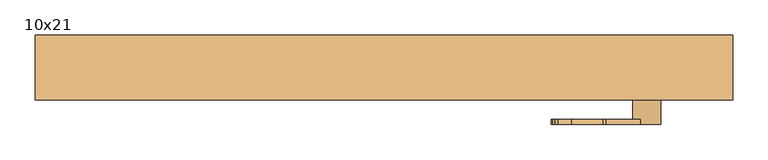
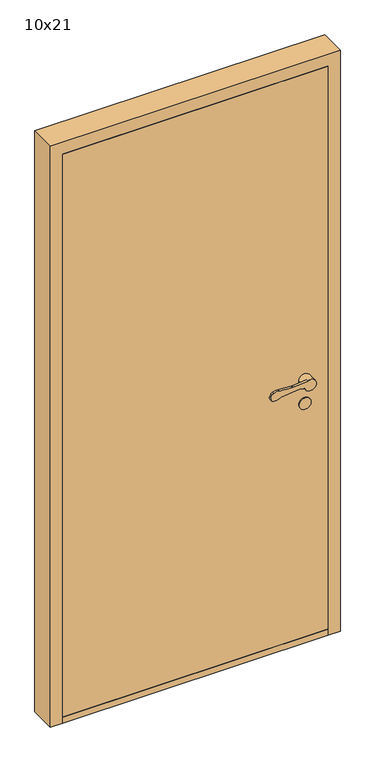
"""IFC4 building model written with IfcOpenShell, lengths in millimetres: door geometry, Innerdør Slett (Diplomat) : 10x21."""

from ifc_helpers import new_model, si_unit, point, frame, frame_2d, origin, origin_with_axes, place, context, project, spatial, polyline, circle_curve, trimmed, segment, composite_curve, outline, extrude, source, transform, mapped, element, save
from ifc_brep_helpers import plane_surface, cylinder_surface, revolved_surface, advanced_brep


def door_10x21_bfb00524(model_context):
    return source(origin(), model_context, "Body", "SolidModel", [
        advanced_brep(
        [(393.9611305, 20.0, 949.1175955), (388.8520664, 20.0, 949.9496913), (326.0476109, 20.0, 943.6260011), (296.721536, 20.0, 938.7393398), (291.8691983, 20.0, 951.8913379), (295.505009, 20.0, 959.9624074), (300.3175669, 20.0, 964.8810513), (318.8963175, 20.0, 967.2639242), (363.6202158, 20.0, 964.1804415), (368.6891233, 20.0, 964.26032), (417.2687793, 20.0, 969.1517356), (446.379633, 20.0, 951.3474568), (408.3841161, 20.0, 942.6204086), (368.6891233, 12.8915284, 964.26032), (363.6202158, 12.8915284, 964.1804415), (318.8963175, 12.8915284, 967.2639242), (300.3175669, 12.8915284, 964.8810513), (295.505009, 12.8915284, 959.9624074), (291.8691983, 12.8915284, 951.8913379), (296.721536, 12.8915284, 938.7393398), (326.0476109, 12.8915284, 943.6260011), (388.8520664, 12.8915284, 949.9496913), (393.9611305, 12.8915284, 949.1175955), (408.3841161, 12.8915284, 942.6204086), (406.379633, 12.8915284, 951.3474568), (417.2687793, 12.8915284, 969.1517356), (446.379633, -15.0, 951.3474568), (406.379633, -15.0, 951.3474568)],
        [
            (0, 1, circle_curve(frame((389.8538865, 20.0, 940.0), z_axis=(0.0, -1.0, 0.0), x_axis=(-0.9949691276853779, 0.0, -0.10018200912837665)), 10.0)),
            (1, 2),
            (2, 3, circle_curve(frame((307.8569644, 20.0, 962.352734), z_axis=(0.0, 1.0, 0.0), x_axis=(-0.9949691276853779, 0.0, -0.10018200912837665)), 26.1072815)),
            (3, 4, circle_curve(frame((300.9867937, 20.0, 947.7840939), z_axis=(0.0, 1.0, 0.0), x_axis=(-0.9949691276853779, 0.0, -0.10018200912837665)), 10.0)),
            (4, 5),
            (5, 6, circle_curve(frame((304.6226045, 20.0, 955.8551634), z_axis=(0.0, 1.0, 0.0), x_axis=(-0.9949691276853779, 0.0, -0.10018200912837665)), 10.0)),
            (6, 7, circle_curve(frame((313.2326797, 20.0, 937.8033877), z_axis=(0.0, 1.0, 0.0), x_axis=(-0.9949691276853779, 0.0, -0.10018200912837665)), 30.0)),
            (7, 8),
            (8, 9, circle_curve(frame((365.683663, 20.0, 994.1093938), z_axis=(0.0, -1.0, 0.0), x_axis=(-0.9949691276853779, 0.0, -0.10018200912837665)), 30.0)),
            (9, 10),
            (10, 11, circle_curve(frame((426.379633, 20.0, 951.3474568), z_axis=(0.0, 1.0, 0.0), x_axis=(-1.0, 0.0, 0.0)), 20.0)),
            (11, 12, circle_curve(frame((426.379633, 20.0, 951.3474568), z_axis=(0.0, 1.0, 0.0), x_axis=(-1.0, 0.0, 0.0)), 20.0)),
            (12, 0),
            (13, 14, circle_curve(frame((365.683663, 12.8915284, 994.1093938), z_axis=(0.0, 1.0, 0.0), x_axis=(-0.9949691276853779, 0.0, -0.10018200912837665)), 30.0)),
            (14, 15),
            (15, 16, circle_curve(frame((313.2326797, 12.8915284, 937.8033877), z_axis=(0.0, -1.0, 0.0), x_axis=(-0.9949691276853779, 0.0, -0.10018200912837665)), 30.0)),
            (16, 17, circle_curve(frame((304.6226045, 12.8915284, 955.8551634), z_axis=(0.0, -1.0, 0.0), x_axis=(-0.9949691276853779, 0.0, -0.10018200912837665)), 10.0)),
            (17, 18),
            (18, 19, circle_curve(frame((300.9867937, 12.8915284, 947.7840939), z_axis=(0.0, -1.0, 0.0), x_axis=(-0.9949691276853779, 0.0, -0.10018200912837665)), 10.0)),
            (19, 20, circle_curve(frame((307.8569644, 12.8915284, 962.352734), z_axis=(0.0, -1.0, 0.0), x_axis=(-0.9949691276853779, 0.0, -0.10018200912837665)), 26.1072815)),
            (20, 21),
            (21, 22, circle_curve(frame((389.8538865, 12.8915284, 940.0), z_axis=(0.0, 1.0, 0.0), x_axis=(-0.9949691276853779, 0.0, -0.10018200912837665)), 10.0)),
            (22, 23),
            (23, 24, circle_curve(frame((426.379633, 12.8915284, 951.3474568), z_axis=(0.0, 1.0, 0.0), x_axis=(-1.0, 0.0, 0.0)), 20.0)),
            (24, 25, circle_curve(frame((426.379633, 12.8915284, 951.3474568), z_axis=(0.0, 1.0, 0.0), x_axis=(-1.0, 0.0, 0.0)), 20.0)),
            (25, 13),
            (9, 13),
            (25, 10),
            (22, 0),
            (12, 23),
            (21, 1),
            (20, 2),
            (19, 3),
            (18, 4),
            (17, 5),
            (16, 6),
            (15, 7),
            (14, 8),
            (26, 27, circle_curve(frame((426.379633, -15.0, 951.3474568), z_axis=(0.0, -1.0, 0.0), x_axis=(-1.0, 0.0, 0.0)), 20.0)),
            (27, 26, circle_curve(frame((426.379633, -15.0, 951.3474568), z_axis=(0.0, -1.0, 0.0), x_axis=(-1.0, 0.0, 0.0)), 20.0)),
            (27, 24),
            (11, 26),
        ],
        [
            plane_surface(frame((417.6960588, 20.0, 969.1947577), z_axis=(0.0, 1.0000000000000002, 0.0), x_axis=(0.9949691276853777, 0.0, 0.10018200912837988))),
            plane_surface(frame((417.6960588, 12.8915284, 969.1947577), z_axis=(0.0, -1.0000000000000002, 0.0), x_axis=(-0.9949691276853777, 0.0, -0.10018200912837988))),
            plane_surface(frame((368.6891233, 20.0, 964.26032), z_axis=(-0.10018200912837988, 0.0, 0.9949691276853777), x_axis=(0.0, -1.0, 0.0))),
            plane_surface(frame((426.9687366, 20.0, 934.2485115), z_axis=(-0.41072439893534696, 0.0, -0.91175954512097), x_axis=(0.0, -1.0, 0.0))),
            revolved_surface(polyline([(379.9041952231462, 12.8915284, 938.9981799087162), (379.9041952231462, 20.0, 938.9981799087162)]), (389.8538865, 12.8915284, 940.0), (0.0, -1.0, 0.0)),
            plane_surface(frame((388.8520664, 20.0, 949.9496913), z_axis=(0.10018200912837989, 0.0, -0.9949691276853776), x_axis=(0.0, -1.0, 0.0))),
            cylinder_surface(frame((307.8569644, 12.8915284, 962.352734), z_axis=(0.0, 1.0, 0.0), x_axis=(-0.9949691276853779, 0.0, -0.10018200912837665)), 26.1072815),
            cylinder_surface(frame((300.9867937, 12.8915284, 947.7840939), z_axis=(0.0, 1.0, 0.0), x_axis=(-0.9949691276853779, 0.0, -0.10018200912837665)), 10.0),
            plane_surface(frame((291.8691983, 20.0, 951.8913379), z_axis=(-0.9117595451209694, 0.0, 0.41072439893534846), x_axis=(0.0, -1.0, 0.0))),
            cylinder_surface(frame((304.6226045, 12.8915284, 955.8551634), z_axis=(0.0, 1.0, 0.0), x_axis=(-0.9949691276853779, 0.0, -0.10018200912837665)), 10.0),
            cylinder_surface(frame((313.2326797, 12.8915284, 937.8033877), z_axis=(0.0, 1.0, 0.0), x_axis=(-0.9949691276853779, 0.0, -0.10018200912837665)), 30.0),
            plane_surface(frame((318.8963175, 20.0, 967.2639242), z_axis=(0.06878157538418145, 0.0, 0.9976317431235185), x_axis=(0.0, -1.0, 0.0))),
            revolved_surface(polyline([(335.8345891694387, 12.8915284, 991.1039335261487), (335.8345891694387, 20.0, 991.1039335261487)]), (365.683663, 12.8915284, 994.1093938), (0.0, -1.0, 0.0)),
            plane_surface(frame((406.379633, -15.0, 951.3474568), z_axis=(0.0, -1.0, 0.0), x_axis=(0.0, 0.0, -1.0))),
            cylinder_surface(frame((426.379633, -15.0, 951.3474568), z_axis=(0.0, 1.0, 0.0), x_axis=(-1.0, 0.0, 0.0)), 20.0),
        ],
        [
            (0, [[1, 2, 3, 4, 5, 6, 7, 8, 9, 10, 11, 12, 13]]),
            (1, [[14, 15, 16, 17, 18, 19, 20, 21, 22, 23, 24, 25, 26]]),
            (2, [[27, -26, 28, -10]]),
            (3, [[29, -13, 30, -23]]),
            (4, [[-1, -29, -22, 31]]),
            (5, [[-2, -31, -21, 32]]),
            (6, [[-3, -32, -20, 33]]),
            (7, [[-4, -33, -19, 34]]),
            (8, [[-5, -34, -18, 35]]),
            (9, [[-6, -35, -17, 36]]),
            (10, [[-7, -36, -16, 37]]),
            (11, [[-8, -37, -15, 38]]),
            (12, [[-9, -38, -14, -27]]),
            (13, [[39, 40]]),
            (14, [[-40, 41, -24, -30, -12, 42]]),
            (14, [[-39, -42, -11, -28, -25, -41]]),
        ],
    ),
        extrude(outline(composite_curve([segment(trimmed(circle_curve(frame_2d((866.3474568, 426.379633)), 20.0), [point((866.3474568, 446.379633))], [point((866.3474568, 406.379633))], False, "CARTESIAN"), True, "CONTINUOUS"), segment(trimmed(circle_curve(frame_2d((866.3474568, 426.379633)), 20.0), [point((866.3474568, 406.379633))], [point((866.3474568, 446.379633))], False, "CARTESIAN"), True, "CONTINUOUS")], self_intersect=False)), frame((0.0, -15.0, 0.0), z_axis=(0.0, 1.0, 0.0), x_axis=(0.0, 0.0, 1.0)), (0.0, 0.0, 1.0), 5.0),
        advanced_brep(
        [(393.9611305, -100.0, 949.1175955), (408.3841161, -100.0, 942.6204086), (446.379633, -100.0, 951.3474568), (417.2687793, -100.0, 969.1517356), (368.6891233, -100.0, 964.26032), (363.6202158, -100.0, 964.1804415), (318.8963175, -100.0, 967.2639242), (300.3175669, -100.0, 964.8810513), (295.505009, -100.0, 959.9624074), (291.8691983, -100.0, 951.8913379), (296.721536, -100.0, 938.7393398), (326.0476109, -100.0, 943.6260011), (388.8520664, -100.0, 949.9496913), (368.6891233, -92.8915284, 964.26032), (417.2687793, -92.8915284, 969.1517356), (406.379633, -92.8915284, 951.3474568), (408.3841161, -92.8915284, 942.6204086), (393.9611305, -92.8915284, 949.1175955), (388.8520664, -92.8915284, 949.9496913), (326.0476109, -92.8915284, 943.6260011), (296.721536, -92.8915284, 938.7393398), (291.8691983, -92.8915284, 951.8913379), (295.505009, -92.8915284, 959.9624074), (300.3175669, -92.8915284, 964.8810513), (318.8963175, -92.8915284, 967.2639242), (363.6202158, -92.8915284, 964.1804415), (446.379633, -65.0, 951.3474568), (406.379633, -65.0, 951.3474568)],
        [
            (0, 1),
            (1, 2, circle_curve(frame((426.379633, -100.0, 951.3474568), z_axis=(0.0, -1.0, 0.0), x_axis=(-1.0, 0.0, 0.0)), 20.0)),
            (2, 3, circle_curve(frame((426.379633, -100.0, 951.3474568), z_axis=(0.0, -1.0, 0.0), x_axis=(-1.0, 0.0, 0.0)), 20.0)),
            (3, 4),
            (4, 5, circle_curve(frame((365.683663, -100.0, 994.1093938), z_axis=(0.0, 1.0, 0.0), x_axis=(-0.9949691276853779, 0.0, -0.10018200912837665)), 30.0)),
            (5, 6),
            (6, 7, circle_curve(frame((313.2326797, -100.0, 937.8033877), z_axis=(0.0, -1.0, 0.0), x_axis=(-0.9949691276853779, 0.0, -0.10018200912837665)), 30.0)),
            (7, 8, circle_curve(frame((304.6226045, -100.0, 955.8551634), z_axis=(0.0, -1.0, 0.0), x_axis=(-0.9949691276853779, 0.0, -0.10018200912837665)), 10.0)),
            (8, 9),
            (9, 10, circle_curve(frame((300.9867937, -100.0, 947.7840939), z_axis=(0.0, -1.0, 0.0), x_axis=(-0.9949691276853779, 0.0, -0.10018200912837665)), 10.0)),
            (10, 11, circle_curve(frame((307.8569644, -100.0, 962.352734), z_axis=(0.0, -1.0, 0.0), x_axis=(-0.9949691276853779, 0.0, -0.10018200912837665)), 26.1072815)),
            (11, 12),
            (12, 0, circle_curve(frame((389.8538865, -100.0, 940.0), z_axis=(0.0, 1.0, 0.0), x_axis=(-0.9949691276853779, 0.0, -0.10018200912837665)), 10.0)),
            (13, 14),
            (14, 15, circle_curve(frame((426.379633, -92.8915284, 951.3474568), z_axis=(0.0, -1.0, 0.0), x_axis=(-1.0, 0.0, 0.0)), 20.0)),
            (15, 16, circle_curve(frame((426.379633, -92.8915284, 951.3474568), z_axis=(0.0, -1.0, 0.0), x_axis=(-1.0, 0.0, 0.0)), 20.0)),
            (16, 17),
            (17, 18, circle_curve(frame((389.8538865, -92.8915284, 940.0), z_axis=(0.0, -1.0, 0.0), x_axis=(-0.9949691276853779, 0.0, -0.10018200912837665)), 10.0)),
            (18, 19),
            (19, 20, circle_curve(frame((307.8569644, -92.8915284, 962.352734), z_axis=(0.0, 1.0, 0.0), x_axis=(-0.9949691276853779, 0.0, -0.10018200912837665)), 26.1072815)),
            (20, 21, circle_curve(frame((300.9867937, -92.8915284, 947.7840939), z_axis=(0.0, 1.0, 0.0), x_axis=(-0.9949691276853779, 0.0, -0.10018200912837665)), 10.0)),
            (21, 22),
            (22, 23, circle_curve(frame((304.6226045, -92.8915284, 955.8551634), z_axis=(0.0, 1.0, 0.0), x_axis=(-0.9949691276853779, 0.0, -0.10018200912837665)), 10.0)),
            (23, 24, circle_curve(frame((313.2326797, -92.8915284, 937.8033877), z_axis=(0.0, 1.0, 0.0), x_axis=(-0.9949691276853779, 0.0, -0.10018200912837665)), 30.0)),
            (24, 25),
            (25, 13, circle_curve(frame((365.683663, -92.8915284, 994.1093938), z_axis=(0.0, -1.0, 0.0), x_axis=(-0.9949691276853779, 0.0, -0.10018200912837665)), 30.0)),
            (3, 14),
            (13, 4),
            (16, 1),
            (0, 17),
            (12, 18),
            (11, 19),
            (10, 20),
            (9, 21),
            (8, 22),
            (7, 23),
            (6, 24),
            (5, 25),
            (26, 27, circle_curve(frame((426.379633, -65.0, 951.3474568), z_axis=(0.0, 1.0, 0.0), x_axis=(-1.0, 0.0, 0.0)), 20.0)),
            (27, 26, circle_curve(frame((426.379633, -65.0, 951.3474568), z_axis=(0.0, 1.0, 0.0), x_axis=(-1.0, 0.0, 0.0)), 20.0)),
            (26, 2),
            (15, 27),
        ],
        [
            plane_surface(frame((417.6960588, -100.0, 969.1947577), z_axis=(0.0, -1.0000000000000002, 0.0), x_axis=(0.9949691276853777, 0.0, 0.10018200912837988))),
            plane_surface(frame((417.6960588, -92.8915284, 969.1947577), z_axis=(0.0, 1.0000000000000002, 0.0), x_axis=(-0.9949691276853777, 0.0, -0.10018200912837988))),
            plane_surface(frame((368.6891233, -100.0, 964.26032), z_axis=(-0.10018200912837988, 0.0, 0.9949691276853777), x_axis=(0.0, 1.0, 0.0))),
            plane_surface(frame((426.9687366, -100.0, 934.2485115), z_axis=(-0.41072439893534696, 0.0, -0.91175954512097), x_axis=(0.0, 1.0, 0.0))),
            revolved_surface(polyline([(379.9041952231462, -92.8915284, 938.9981799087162), (379.9041952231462, -100.0, 938.9981799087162)]), (389.8538865, -92.8915284, 940.0), (0.0, 1.0, 0.0)),
            plane_surface(frame((388.8520664, -100.0, 949.9496913), z_axis=(0.10018200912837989, 0.0, -0.9949691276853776), x_axis=(0.0, 1.0, 0.0))),
            cylinder_surface(frame((307.8569644, -92.8915284, 962.352734), z_axis=(0.0, -1.0, 0.0), x_axis=(-0.9949691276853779, 0.0, -0.10018200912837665)), 26.1072815),
            cylinder_surface(frame((300.9867937, -92.8915284, 947.7840939), z_axis=(0.0, -1.0, 0.0), x_axis=(-0.9949691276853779, 0.0, -0.10018200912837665)), 10.0),
            plane_surface(frame((291.8691983, -100.0, 951.8913379), z_axis=(-0.9117595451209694, 0.0, 0.41072439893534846), x_axis=(0.0, 1.0, 0.0))),
            cylinder_surface(frame((304.6226045, -92.8915284, 955.8551634), z_axis=(0.0, -1.0, 0.0), x_axis=(-0.9949691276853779, 0.0, -0.10018200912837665)), 10.0),
            cylinder_surface(frame((313.2326797, -92.8915284, 937.8033877), z_axis=(0.0, -1.0, 0.0), x_axis=(-0.9949691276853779, 0.0, -0.10018200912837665)), 30.0),
            plane_surface(frame((318.8963175, -100.0, 967.2639242), z_axis=(0.06878157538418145, 0.0, 0.9976317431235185), x_axis=(0.0, 1.0, 0.0))),
            revolved_surface(polyline([(335.8345891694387, -92.8915284, 991.1039335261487), (335.8345891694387, -100.0, 991.1039335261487)]), (365.683663, -92.8915284, 994.1093938), (0.0, 1.0, 0.0)),
            plane_surface(frame((406.379633, -65.0, 951.3474568), z_axis=(0.0, 1.0, 0.0), x_axis=(0.0, 0.0, -1.0))),
            cylinder_surface(frame((426.379633, -65.0, 951.3474568), z_axis=(0.0, -1.0, 0.0), x_axis=(-1.0, 0.0, 0.0)), 20.0),
        ],
        [
            (0, [[1, 2, 3, 4, 5, 6, 7, 8, 9, 10, 11, 12, 13]]),
            (1, [[14, 15, 16, 17, 18, 19, 20, 21, 22, 23, 24, 25, 26]]),
            (2, [[-4, 27, -14, 28]]),
            (3, [[-17, 29, -1, 30]]),
            (4, [[31, -18, -30, -13]]),
            (5, [[32, -19, -31, -12]]),
            (6, [[33, -20, -32, -11]]),
            (7, [[34, -21, -33, -10]]),
            (8, [[35, -22, -34, -9]]),
            (9, [[36, -23, -35, -8]]),
            (10, [[37, -24, -36, -7]]),
            (11, [[38, -25, -37, -6]]),
            (12, [[-28, -26, -38, -5]]),
            (13, [[39, 40]]),
            (14, [[41, -2, -29, -16, 42, -39]]),
            (14, [[-42, -15, -27, -3, -41, -40]]),
        ],
    ),
        extrude(outline(composite_curve([segment(trimmed(circle_curve(frame_2d((866.3474568, 426.379633)), 20.0), [point((866.3474568, 446.379633))], [point((866.3474568, 406.379633))], False, "CARTESIAN"), True, "CONTINUOUS"), segment(trimmed(circle_curve(frame_2d((866.3474568, 426.379633)), 20.0), [point((866.3474568, 406.379633))], [point((866.3474568, 446.379633))], False, "CARTESIAN"), True, "CONTINUOUS")], self_intersect=False)), frame((0.0, -70.0, 0.0), z_axis=(0.0, 1.0, 0.0), x_axis=(0.0, 0.0, 1.0)), (0.0, 0.0, 1.0), 5.0),
        extrude(outline(polyline([(506.379633, 27.0), (506.379633, -65.0), (-399.620367, -65.0), (-399.620367, 27.0), (506.379633, 27.0)])), origin_with_axes(), (0.0, 0.0, 1.0), 22.0),
        extrude(outline(polyline([(506.379633, -15.0), (506.379633, -65.0), (-399.620367, -65.0), (-399.620367, -15.0), (506.379633, -15.0)])), frame((0.0, 0.0, 22.0), z_axis=(0.0, 0.0, 1.0), x_axis=(1.0, 0.0, 0.0)), (0.0, 0.0, 1.0), 2031.0),
        extrude(outline(polyline([(0.0, -399.620367), (2053.0, -399.620367), (2053.0, 506.379633), (0.0, 506.379633), (0.0, 548.379633), (2095.0, 548.379633), (2095.0, -441.620367), (0.0, -441.620367), (0.0, -399.620367)])), frame((0.0, -65.0, 0.0), z_axis=(0.0, 1.0, 0.0), x_axis=(0.0, 0.0, 1.0)), (0.0, 0.0, 1.0), 92.0),
    ])


if __name__ == "__main__":
    model = new_model("IFC4")
    model_context = context("Model", 3, world=origin())
    ifc_project = project(units=[si_unit("LENGTHUNIT", "METRE", prefix="MILLI")], contexts=[model_context])
    site = spatial("IfcSite", under=ifc_project)
    building = spatial("IfcBuilding", under=site)
    placement = place(None, origin())
    door_10x21_shape = door_10x21_bfb00524(model_context)
    element("IfcDoor", 1, ObjectType="Innerdør Slett (Diplomat) : 10x21", at=placement, inside=building, context=model_context, shape_type="MappedRepresentation", body=[
        mapped(door_10x21_shape, transform((0.0, 0.0, 0.0), x_axis=(1.0, 0.0, 0.0), y_axis=(0.0, 1.0, 0.0), z_axis=(0.0, 0.0, 1.0))),
    ])
    save(model, "model.ifc")
